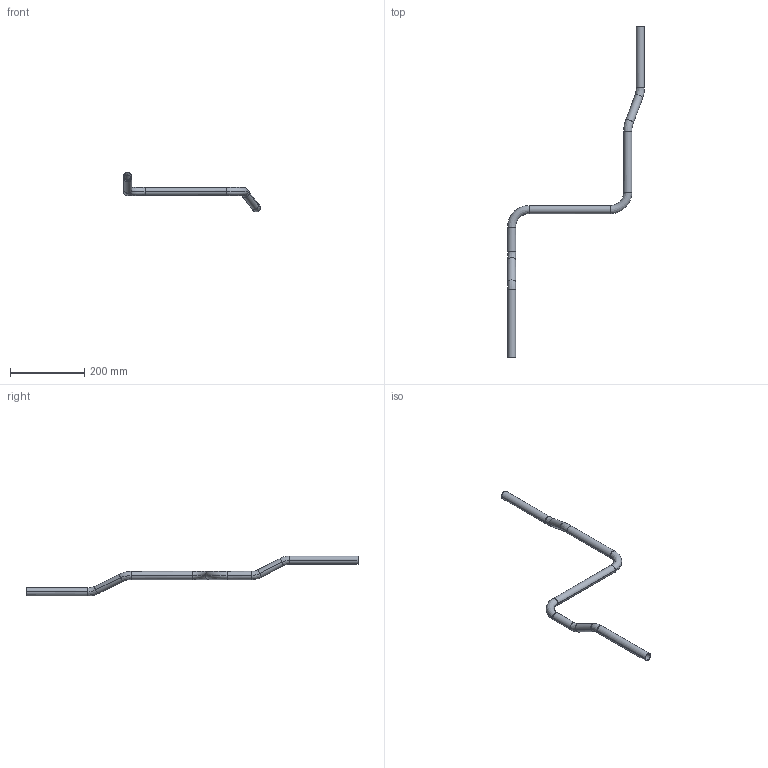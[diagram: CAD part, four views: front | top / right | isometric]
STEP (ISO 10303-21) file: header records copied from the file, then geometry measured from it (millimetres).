
FILE_DESCRIPTION(('CATIA V5 STEP Exchange','CAx-IF Rec.Pracs.--- Model Styling and Organization---1.2---2011-12-15'),'2;1');
FILE_NAME('c:\aplikace\smarteam\Temp\DO584473.step','2016-06-24T11:28:27+00:00',('none'),('none'),'CATIA Version 5 Release 21 SP 6 (IN-10)','CATIA V5 STEP AP214','none');
FILE_SCHEMA(('AUTOMOTIVE_DESIGN { 1 0 10303 214 1 1 1 1 }'));
Length unit declared in the file: millimetre
Products named in the file (1): DO584473, TRUBKA R2T4
Bounding box: 369 x 895 x 107.5 mm (x, y, z)
Volume: 115086.5 mm3; surface area: 153641.8 mm2
Topology: 1 solids, 1 shells, 54 faces, 108 edges, 56 vertices
Faces by surface type: cylinder 28, bspline 24, plane 2
Entity records: 2149 total; most frequent: CARTESIAN_POINT 1275, ORIENTED_EDGE 216, DIRECTION 120, EDGE_CURVE 108, AXIS2_PLACEMENT_3D 63, EDGE_LOOP 56, VERTEX_POINT 56, ADVANCED_FACE 54
